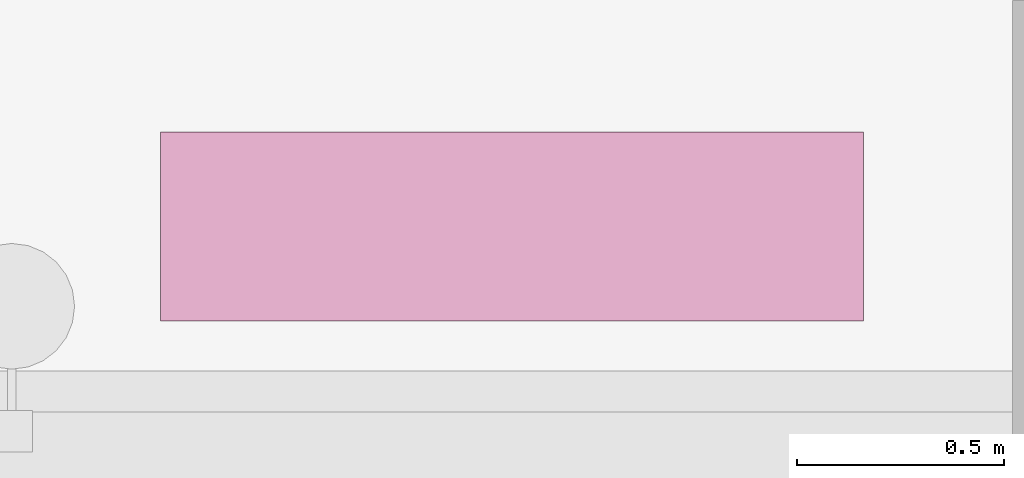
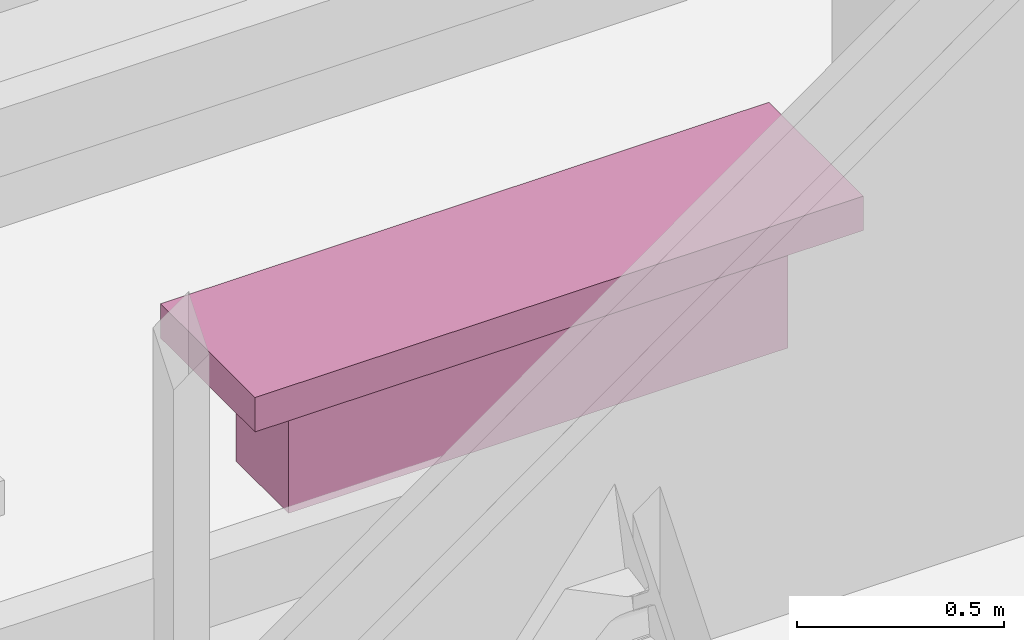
# One storey, part 128 of 155: 1 furnishing.
"""IFC2X3 building model written with IfcOpenShell, lengths in metres."""

import ifcopenshell
import ifcopenshell.guid

model = None  # the IFC model being written
_history = None  # IfcOwnerHistory: only IFC2X3 demands one
_inside = {}  # id of a spatial element -> (the spatial element, [elements in it])
_under = {}  # id of a project, library or spatial element -> (it, [spatial elements below it])
_declared = {}  # id of a project -> (the project, [libraries it declares])
_typed = {}  # id of a type object -> (the type object, [elements of that type])
_made_of = {}  # id of a material, layer set ... -> (it, [elements and type objects made of it])


def new_model(schema):
    """Start an empty IFC model of exactly this schema.

    Asked for "IFC4X3", IfcOpenShell would pick the latest addendum, in which some entities
    have other attributes; the version numbers below select the first issue.
    IFC2X3 requires an IfcOwnerHistory on every rooted entity: one is made here for all.
    """
    global model, _history
    if schema == "IFC4X3":
        model = ifcopenshell.file(schema_version=(4, 3, 0, 0))
    else:
        model = ifcopenshell.file(schema=schema)
    _inside.clear()
    _under.clear()
    _declared.clear()
    _typed.clear()
    _made_of.clear()
    _history = None
    if model.schema == "IFC2X3":
        org = make("IfcOrganization", Name="unknown")
        user = make(
            "IfcPersonAndOrganization",
            ThePerson=make("IfcPerson", FamilyName="unknown"),
            TheOrganization=org,
        )
        app = make(
            "IfcApplication",
            ApplicationDeveloper=org,
            Version="unknown",
            ApplicationFullName="unknown",
            ApplicationIdentifier="unknown",
        )
        _history = make(
            "IfcOwnerHistory",
            OwningUser=user,
            OwningApplication=app,
            ChangeAction="ADDED",
            CreationDate=0,
        )
    return model


def make(cls, **values):
    """One entity of the class cls with the attributes given. An attribute that is None is left unset."""
    return model.create_entity(
        cls, **{name: value for name, value in values.items() if value is not None}
    )


def entity(cls, *values):
    """Any entity or typed value of the class cls, its attributes in the order of the schema. None: left unset."""
    e = model.create_entity(cls)
    for i, value in enumerate(values):
        if value is not None:
            e[i] = value
    return e


def rooted(cls, **values):
    """An entity with a GlobalId (a new one), such as an element, a storey or a relation."""
    return make(cls, GlobalId=ifcopenshell.guid.new(), OwnerHistory=_history, **values)


def si_unit(unit_type, name, prefix=None):
    """IfcSIUnit, for example si_unit("LENGTHUNIT", "METRE", prefix="MILLI")."""
    return make("IfcSIUnit", UnitType=unit_type, Prefix=prefix, Name=name)


def converted_unit(unit_type, name, factor, base, dimensions=None, offset=None):
    """IfcConversionBasedUnit, such as the inch: factor (a typed value) times the base unit."""
    return make(
        "IfcConversionBasedUnit"
        if offset is None
        else "IfcConversionBasedUnitWithOffset",
        ConversionOffset=offset,
        Dimensions=None
        if dimensions is None
        else entity("IfcDimensionalExponents", *dimensions),
        UnitType=unit_type,
        Name=name,
        ConversionFactor=make(
            "IfcMeasureWithUnit", ValueComponent=factor, UnitComponent=base
        ),
    )


def derived_unit(unit_type, elements):
    """IfcDerivedUnit: a product of units, each with its exponent."""
    return make(
        "IfcDerivedUnit",
        Elements=[
            make("IfcDerivedUnitElement", Unit=unit, Exponent=power)
            for unit, power in elements
        ],
        UnitType=unit_type,
    )


def assignment(units):
    """IfcUnitAssignment: the units of a project."""
    return None if units is None else make("IfcUnitAssignment", Units=units)


def point(xyz):
    """IfcCartesianPoint."""
    return None if xyz is None else make("IfcCartesianPoint", Coordinates=xyz)


def direction(xyz):
    """IfcDirection."""
    return None if xyz is None else make("IfcDirection", DirectionRatios=xyz)


def frame(location, z_axis=None, x_axis=None):
    """IfcAxis2Placement3D, a coordinate frame: its origin and axes. An axis left out is left unset."""
    return make(
        "IfcAxis2Placement3D",
        Location=point(location),
        Axis=direction(z_axis),
        RefDirection=direction(x_axis),
    )


def frame_2d(location, x_axis=None):
    """IfcAxis2Placement2D, a coordinate frame in the plane: its origin and x axis."""
    return make(
        "IfcAxis2Placement2D", Location=point(location), RefDirection=direction(x_axis)
    )


def origin():
    """The frame at (0, 0, 0) with its axes left unset."""
    return frame((0.0, 0.0, 0.0))


def origin_2d_with_axis():
    """The frame at (0, 0) in the plane with the x axis (1, 0) written out."""
    return frame_2d((0.0, 0.0), x_axis=(1.0, 0.0))


def place(relative_to, where):
    """IfcLocalPlacement: puts the frame where relative to a parent placement (None: the world)."""
    return make(
        "IfcLocalPlacement", PlacementRelTo=relative_to, RelativePlacement=where
    )


def context(
    kind, dimensions, precision=None, world=None, true_north=None, identifier=None
):
    """IfcGeometricRepresentationContext, for example the 3D "Model" context."""
    return make(
        "IfcGeometricRepresentationContext",
        ContextIdentifier=identifier,
        ContextType=kind,
        CoordinateSpaceDimension=dimensions,
        Precision=precision,
        WorldCoordinateSystem=world,
        TrueNorth=true_north,
    )


def subcontext(parent, identifier, kind, view, scale=None):
    """IfcGeometricRepresentationSubContext, for example "Body" below "Model"."""
    return make(
        "IfcGeometricRepresentationSubContext",
        ContextIdentifier=identifier,
        ContextType=kind,
        ParentContext=parent,
        TargetScale=scale,
        TargetView=view,
    )


def project(units=None, contexts=None):
    """IfcProject with its units and contexts."""
    return rooted(
        "IfcProject",
        Name="project",
        RepresentationContexts=contexts,
        UnitsInContext=assignment(units),
    )


def spatial(cls, under=None, at=None, **own):
    """A site, building, storey or space (cls), placed at a placement, below another one or the project."""
    s = rooted(cls, ObjectPlacement=at, **own)
    if under is not None:
        _under.setdefault(under.id(), (under, []))[1].append(s)
    return s


def profile(cls, at=None, kind="AREA", **sizes):
    """A parametric profile (cls). Its sizes go by their IFC names, for example OverallWidth=200.0."""
    return make(cls, ProfileType=kind, Position=at, **sizes)


def rectangle(**sizes):
    """IfcRectangleProfileDef."""
    return profile("IfcRectangleProfileDef", **sizes)


def extrude(swept, where, along, depth):
    """IfcExtrudedAreaSolid: the profile swept, set in the frame where, extruded along a direction by depth."""
    return make(
        "IfcExtrudedAreaSolid",
        SweptArea=swept,
        Position=where,
        ExtrudedDirection=direction(along),
        Depth=depth,
    )


def shape(context_of_items, identifier, shape_type, items):
    """IfcShapeRepresentation: the items that make up one representation, for example the "Body"."""
    return make(
        "IfcShapeRepresentation",
        ContextOfItems=context_of_items,
        RepresentationIdentifier=identifier,
        RepresentationType=shape_type,
        Items=items,
    )


def source(mapping_origin, context_of_items, identifier, shape_type, items):
    """IfcRepresentationMap: a shape defined once, which mapped items show again and again."""
    return make(
        "IfcRepresentationMap",
        MappingOrigin=mapping_origin,
        MappedRepresentation=shape(context_of_items, identifier, shape_type, items),
    )


def transform(
    local_origin,
    x_axis=None,
    y_axis=None,
    z_axis=None,
    scale=None,
    scale2=None,
    scale3=None,
    uniform=True,
):
    """IfcCartesianTransformationOperator3D, or its non-uniform kind. x_axis, y_axis, z_axis: its Axis1, 2, 3."""
    if uniform:
        return make(
            "IfcCartesianTransformationOperator3D",
            Axis1=direction(x_axis),
            Axis2=direction(y_axis),
            LocalOrigin=point(local_origin),
            Scale=scale,
            Axis3=direction(z_axis),
        )
    return make(
        "IfcCartesianTransformationOperator3DnonUniform",
        Axis1=direction(x_axis),
        Axis2=direction(y_axis),
        LocalOrigin=point(local_origin),
        Scale=scale,
        Axis3=direction(z_axis),
        Scale2=scale2,
        Scale3=scale3,
    )


def mapped(mapping_source, mapping_target):
    """IfcMappedItem: shows the shape of a source again, moved by a transform."""
    return make(
        "IfcMappedItem", MappingSource=mapping_source, MappingTarget=mapping_target
    )


def material(Name=None, Category=None):
    """IfcMaterial."""
    return make("IfcMaterial", Name=Name, Category=Category)


def made_of(thing, what):
    """Note that an element or type object is made of a material, layer set ...; save() writes the relation."""
    if what is not None:
        _made_of.setdefault(what.id(), (what, []))[1].append(thing)
    return thing


def type_object(cls, material=None, **own):
    """A type object (cls), such as IfcWallType, which elements share."""
    return made_of(rooted(cls, **own), material)


def type_shapes(of_type, sources):
    """Give a type object the sources (RepresentationMaps) that its elements show as mapped items."""
    of_type.RepresentationMaps = sources


def element(
    cls,
    number,
    at=None,
    inside=None,
    cuts=None,
    type_object=None,
    material=None,
    context=None,
    identifier="Body",
    shape_type=None,
    held_by="IfcProductDefinitionShape",
    body=None,
    shapes=None,
    **own,
):
    """One element of the class cls, such as IfcWall. Its Tag is "e" and its number.

    at: its placement. inside: the storey or other place that contains it. cuts: it is an
    opening in that element (IfcRelVoidsElement). A single representation is given by context,
    identifier, shape_type and body (its items); several are given by shapes. held_by: the class
    of the entity that holds the representations. save() writes the other relations.
    """
    e = rooted(cls, Tag="e%d" % number, ObjectPlacement=at, **own)
    if body is not None:
        shapes = [shape(context, identifier, shape_type, body)]
    if shapes is not None:
        e.Representation = make(held_by, Representations=shapes)
    if inside is not None:
        _inside.setdefault(inside.id(), (inside, []))[1].append(e)
    if cuts is not None:
        rooted(
            "IfcRelVoidsElement", RelatingBuildingElement=cuts, RelatedOpeningElement=e
        )
    if type_object is not None:
        _typed.setdefault(type_object.id(), (type_object, []))[1].append(e)
    return made_of(e, material)


def aggregate(whole, parts):
    """IfcRelAggregates: a whole, such as a stair, and the parts it consists of."""
    return rooted("IfcRelAggregates", RelatingObject=whole, RelatedObjects=parts)


def save(model, path):
    """Write the relations noted so far, then the file.

    IfcRelAggregates (storeys below a building ...), IfcRelContainedInSpatialStructure (elements
    in a storey), IfcRelDefinesByType, IfcRelAssociatesMaterial and IfcRelDeclares: one each for
    every whole, place, type object, material and project.
    """
    for whole, parts in _under.values():
        aggregate(whole, parts)
    for where, things in _inside.values():
        rooted(
            "IfcRelContainedInSpatialStructure",
            RelatedElements=things,
            RelatingStructure=where,
        )
    for kind, things in _typed.values():
        rooted("IfcRelDefinesByType", RelatedObjects=things, RelatingType=kind)
    for what, things in _made_of.values():
        rooted("IfcRelAssociatesMaterial", RelatedObjects=things, RelatingMaterial=what)
    for by, libraries in _declared.values():
        rooted("IfcRelDeclares", RelatingContext=by, RelatedDefinitions=libraries)
    model.write(path)


model = new_model("IFC2X3")

# Units and contexts
model_context = context("Model", 3, precision=1e-05, world=origin(), true_north=direction((6.12303176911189e-17, 1.0)))
body_context = subcontext(model_context, "Body", "Model", "MODEL_VIEW")
ifc_project = project(units=[si_unit("LENGTHUNIT", "METRE"), si_unit("AREAUNIT", "SQUARE_METRE"), si_unit("VOLUMEUNIT", "CUBIC_METRE"), converted_unit("PLANEANGLEUNIT", "DEGREE", entity("IfcRatioMeasure", 0.0174532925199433), si_unit("PLANEANGLEUNIT", "RADIAN"), dimensions=[0, 0, 0, 0, 0, 0, 0]), si_unit("MASSUNIT", "GRAM", prefix="KILO"), derived_unit("MASSDENSITYUNIT", [(si_unit("MASSUNIT", "GRAM", prefix="KILO"), 1), (si_unit("LENGTHUNIT", "METRE"), -3)]), si_unit("TIMEUNIT", "SECOND"), si_unit("FREQUENCYUNIT", "HERTZ"), si_unit("THERMODYNAMICTEMPERATUREUNIT", "DEGREE_CELSIUS"), derived_unit("THERMALTRANSMITTANCEUNIT", [(si_unit("MASSUNIT", "GRAM", prefix="KILO"), 1), (si_unit("THERMODYNAMICTEMPERATUREUNIT", "KELVIN"), -1), (si_unit("TIMEUNIT", "SECOND"), -3)]), derived_unit("VOLUMETRICFLOWRATEUNIT", [(si_unit("LENGTHUNIT", "METRE"), 3), (si_unit("TIMEUNIT", "SECOND"), -1)]), si_unit("ELECTRICCURRENTUNIT", "AMPERE"), si_unit("ELECTRICVOLTAGEUNIT", "VOLT"), si_unit("POWERUNIT", "WATT"), si_unit("FORCEUNIT", "NEWTON", prefix="KILO"), si_unit("ILLUMINANCEUNIT", "LUX"), si_unit("LUMINOUSFLUXUNIT", "LUMEN"), si_unit("LUMINOUSINTENSITYUNIT", "CANDELA"), derived_unit("USERDEFINED", [(si_unit("MASSUNIT", "GRAM", prefix="KILO"), -1), (si_unit("LENGTHUNIT", "METRE"), -2), (si_unit("TIMEUNIT", "SECOND"), 3), (si_unit("LUMINOUSFLUXUNIT", "LUMEN"), 1)]), derived_unit("LINEARVELOCITYUNIT", [(si_unit("LENGTHUNIT", "METRE"), 1), (si_unit("TIMEUNIT", "SECOND"), -1)]), si_unit("PRESSUREUNIT", "PASCAL"), derived_unit("USERDEFINED", [(si_unit("LENGTHUNIT", "METRE"), -2), (si_unit("MASSUNIT", "GRAM", prefix="KILO"), 1), (si_unit("TIMEUNIT", "SECOND"), -2)])], contexts=[model_context])

# Site, building, storey, space
site_placement = place(None, frame((26.9889013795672, -17.5624287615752, 0.0)))
site = spatial("IfcSite", under=ifc_project, at=site_placement, Name="Default", CompositionType="ELEMENT")
building_placement = place(site_placement, origin())
building = spatial("IfcBuilding", under=site, at=building_placement, Name="C. C. L. Monsenhor Antônio Sampaio", CompositionType="ELEMENT")
storey_placement = place(building_placement, frame((0.0, 0.0, 1.19999999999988)))
storey = spatial("IfcBuildingStorey", under=building, at=storey_placement, Name="Nível 1.2", CompositionType="ELEMENT", Elevation=1.19999999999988)
space_placement = place(storey_placement, origin())
space = spatial("IfcSpace", under=storey, at=space_placement, Name="118", CompositionType="ELEMENT", InteriorOrExteriorSpace="INTERNAL")

# Furnishing
ifc_material = material(Name="Concrete")
furniture_type = type_object("IfcFurnitureType", Name="Concrete_Bench_7009", material=ifc_material)
shared_shape = source(origin(), body_context, "Body", "SweptSolid", [
    extrude(rectangle(XDim=0.254, YDim=1.3952, at=origin_2d_with_axis()), frame((0.849999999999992, 0.0, 0.0), z_axis=(0.0, 0.0, 1.0), x_axis=(0.0, 1.0, 0.0)), (0.0, 0.0, 1.0), 0.3556),
    extrude(rectangle(XDim=0.4572, YDim=1.7, at=origin_2d_with_axis()), frame((0.849999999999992, 0.0, 0.355599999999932), z_axis=(0.0, 0.0, 1.0), x_axis=(0.0, 1.0, 0.0)), (0.0, 0.0, 1.0), 0.1016),
])
type_shapes(furniture_type, [shared_shape])
furnishing_placement = place(space_placement, frame((-11.2905522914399, -9.00439236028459, 0.0)))
element("IfcFurnishingElement", 1, at=furnishing_placement, inside=space, type_object=furniture_type, material=ifc_material, Name="Banco Concreto:Concrete_Bench_7009", ObjectType="Concrete_Bench_7009", context=body_context, shape_type="MappedRepresentation", body=[
    mapped(shared_shape, transform((0.0, 0.0, 0.0), scale=1.0)),
])

save(model, "model.ifc")
